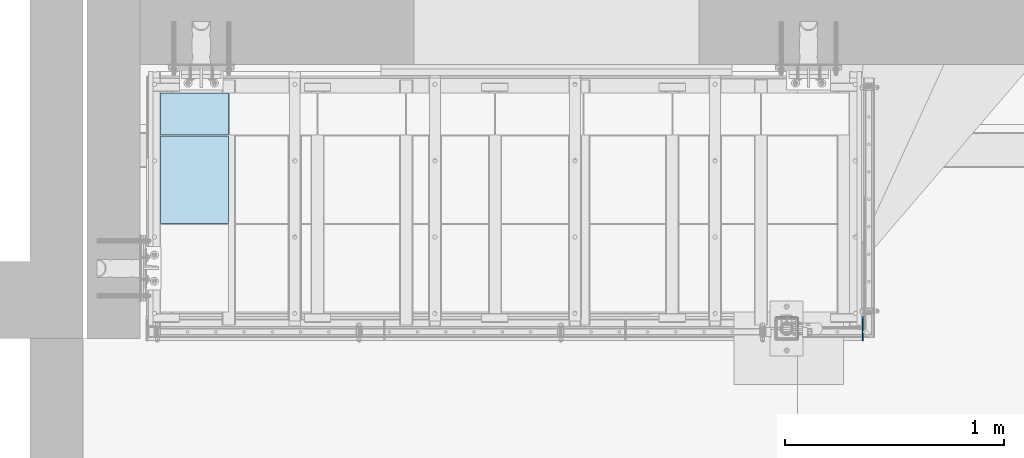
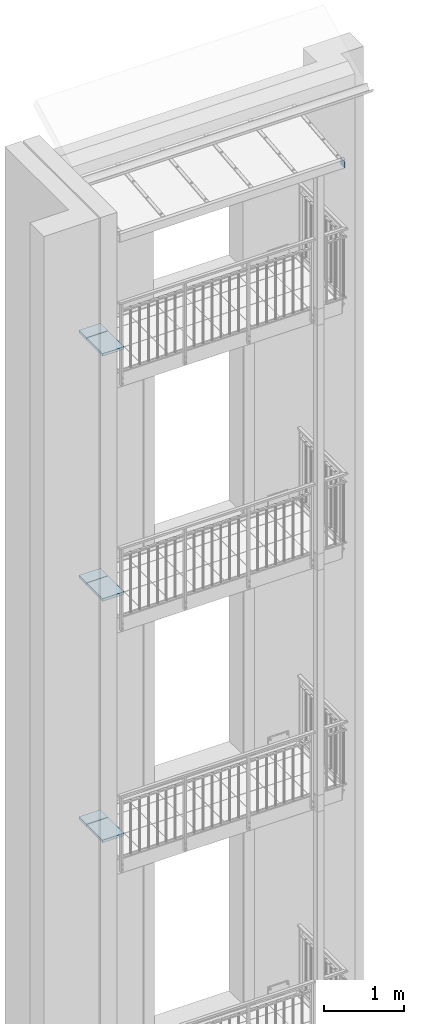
# One storey, part 59 of 162: 7 plates, 3 openings.
"""IFC2X3 building model written with IfcOpenShell, lengths in millimetres."""

from ifc_helpers import new_model, entity, si_unit, converted_unit, point, frame, frame_2d, origin, origin_with_axes, place, context, project, spatial, polyline, circle_curve, line_curve, trimmed, segment, composite_curve, outline, extrude, material, layer, layer_set, element, save


model = new_model("IFC2X3")

# Units and contexts
model_context = context("Model", 3, precision=1e-09, world=origin_with_axes())
ifc_project = project(units=[si_unit("LENGTHUNIT", "METRE", prefix="MILLI"), si_unit("AREAUNIT", "SQUARE_METRE"), si_unit("VOLUMEUNIT", "CUBIC_METRE"), converted_unit("PLANEANGLEUNIT", "DEGREE", entity("IfcPlaneAngleMeasure", 0.01745329), si_unit("PLANEANGLEUNIT", "RADIAN"), dimensions=[0, 0, 0, 0, 0, 0, 0])], contexts=[model_context])

# Site, building, storey
site_placement = place(None, origin_with_axes())
site = spatial("IfcSite", under=ifc_project, at=site_placement, Name="Hermannstra?e 1a, 60318 Frankfurt", CompositionType="ELEMENT")
building_placement = place(site_placement, origin_with_axes())
building = spatial("IfcBuilding", under=site, at=building_placement, Name="Struktur 1", CompositionType="ELEMENT")
storey_placement = place(building_placement, origin_with_axes())
storey = spatial("IfcBuildingStorey", under=building, at=storey_placement, Name="Default Storey", CompositionType="ELEMENT", Elevation=0.0)

# Plates
ifc_material_1 = material(Name="BWS")
ifc_layer_1 = layer(ifc_material_1, 40.0)
ifc_layer_set_1 = layer_set([ifc_layer_1], Name="BWS")
plate_1_placement = place(None, frame((2526.80936482, 2410.109373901, 7774.0), z_axis=(0.0, 0.0, -1.0), x_axis=(1.0, 0.0, 0.0)))
element("IfcPlate", 1, at=plate_1_placement, inside=storey, material=ifc_layer_set_1, Name="-", ObjectType="-", context=model_context, shape_type="SweptSolid", body=[
    extrude(outline(polyline([(91.0, 0.0), (400.0, 0.0), (400.0, 400.0), (91.0, 400.0), (91.0, 0.0)])), origin_with_axes(), (0.0, 0.0, 1.0), 40.0),
])
plate_2_placement = place(None, frame((2526.80936482, 2814.609373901, 7774.0), z_axis=(0.0, 0.0, -1.0), x_axis=(1.0, 0.0, 0.0)))
element("IfcPlate", 2, at=plate_2_placement, inside=storey, material=ifc_layer_set_1, Name="-", ObjectType="-", context=model_context, shape_type="SweptSolid", body=[
    extrude(outline(polyline([(91.0, 209.0), (400.0, 209.0), (400.0, 400.0), (91.0, 400.0), (91.0, 209.0)])), origin_with_axes(), (0.0, 0.0, 1.0), 40.0),
])
plate_3_placement = place(None, frame((2526.80936482, 2410.109373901, 11473.999), z_axis=(0.0, 0.0, -1.0), x_axis=(1.0, 0.0, 0.0)))
element("IfcPlate", 3, at=plate_3_placement, inside=storey, material=ifc_layer_set_1, Name="-", ObjectType="-", context=model_context, shape_type="SweptSolid", body=[
    extrude(outline(polyline([(91.0, 0.0), (400.0, 0.0), (400.0, 400.0), (91.0, 400.0), (91.0, 0.0)])), origin_with_axes(), (0.0, 0.0, 1.0), 40.0),
])
plate_4_placement = place(None, frame((2526.80936482, 2814.609373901, 11473.999), z_axis=(0.0, 0.0, -1.0), x_axis=(1.0, 0.0, 0.0)))
element("IfcPlate", 4, at=plate_4_placement, inside=storey, material=ifc_layer_set_1, Name="-", ObjectType="-", context=model_context, shape_type="SweptSolid", body=[
    extrude(outline(polyline([(91.0, 209.0), (400.0, 209.0), (400.0, 400.0), (91.0, 400.0), (91.0, 209.0)])), origin_with_axes(), (0.0, 0.0, 1.0), 40.0),
])
plate_5_placement = place(None, frame((2526.80936482, 2410.109373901, 15230.999), z_axis=(0.0, 0.0, -1.0), x_axis=(1.0, 0.0, 0.0)))
element("IfcPlate", 5, at=plate_5_placement, inside=storey, material=ifc_layer_set_1, Name="-", ObjectType="-", context=model_context, shape_type="SweptSolid", body=[
    extrude(outline(polyline([(91.0, 0.0), (400.0, 0.0), (400.0, 400.0), (91.0, 400.0), (91.0, 0.0)])), origin_with_axes(), (0.0, 0.0, 1.0), 40.0),
])
plate_6_placement = place(None, frame((2526.80936482, 2814.609373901, 15230.999), z_axis=(0.0, 0.0, -1.0), x_axis=(1.0, 0.0, 0.0)))
element("IfcPlate", 6, at=plate_6_placement, inside=storey, material=ifc_layer_set_1, Name="-", ObjectType="-", context=model_context, shape_type="SweptSolid", body=[
    extrude(outline(polyline([(91.0, 209.0), (400.0, 209.0), (400.0, 400.0), (91.0, 400.0), (91.0, 209.0)])), origin_with_axes(), (0.0, 0.0, 1.0), 40.0),
])

# Plate, openings
ifc_material_2 = material(Name="S235JR")
ifc_layer_2 = layer(ifc_material_2, 5.0)
ifc_layer_set_2 = layer_set([ifc_layer_2], Name="S235JR")
plate_7_placement = place(None, frame((5823.30936482, 1575.111246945, 17386.397408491), z_axis=(-1.0, 0.0, 0.0), x_axis=(0.0, 0.104528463, -0.994521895)))
plate_7 = element("IfcPlate", 7, at=plate_7_placement, inside=storey, material=ifc_layer_set_2, Name="-", ObjectType="-", context=model_context, shape_type="SweptSolid", body=[
    extrude(outline(polyline([(0.0, 0.0), (104.011545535, 0.0), (109.374036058, 5.955649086), (98.397340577, 110.391930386), (1.1e-08, 100.049953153), (0.0, 0.0)])), origin_with_axes(), (0.0, 0.0, 1.0), 5.0),
])
opening_1_placement = place(plate_7_placement, frame((0.0, 0.0, -0.01), z_axis=(0.0, 0.0, 1.0), x_axis=(1.0, 0.0, 0.0)))
element("IfcOpeningElement", 8, at=opening_1_placement, cuts=plate_7, ObjectType="Opening", context=model_context, shape_type="SweptSolid", body=[
    extrude(outline(composite_curve([segment(trimmed(line_curve((104.011545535, 0.0), (0.669130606, 0.743144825), 4.007058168), [point((104.011545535, 0.0))], [point((106.692790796, 2.977824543))], True, "CARTESIAN"), True, "CONTINUOUS"), segment(trimmed(circle_curve(frame_2d((100.004487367, 9.0), x_axis=(-1.0, 0.0)), 9.0), [point((106.692790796, 2.977824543))], [point((100.004487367, 0.0))], False, "CARTESIAN"), True, "CONTINUOUS"), segment(trimmed(line_curve((100.004487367, 0.0), (1.0, 0.0), 4.007058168), [point((100.004487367, 0.0))], [point((104.011545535, 0.0))], True, "CARTESIAN"), True, "CONTINUOUS")], self_intersect=False)), origin(), (0.0, 0.0, 1.0), 5.02),
])
opening_2_placement = place(plate_7_placement, frame((0.0, 0.0, -0.01), z_axis=(0.0, 0.0, 1.0), x_axis=(1.0, 0.0, 0.0)))
element("IfcOpeningElement", 9, at=opening_2_placement, cuts=plate_7, ObjectType="Opening", context=model_context, shape_type="SweptSolid", body=[
    extrude(outline(composite_curve([segment(trimmed(line_curve((109.374036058, 5.955649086), (-0.104528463, 0.994521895), 4.007058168), [point((109.374036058, 5.955649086))], [point((108.955184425, 9.940756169))], True, "CARTESIAN"), True, "CONTINUOUS"), segment(trimmed(circle_curve(frame_2d((100.004487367, 9.0), x_axis=(-1.0, 0.0)), 9.0), [point((108.955184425, 9.940756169))], [point((106.692790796, 2.977824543))], False, "CARTESIAN"), True, "CONTINUOUS"), segment(trimmed(line_curve((106.692790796, 2.977824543), (0.669130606, 0.743144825), 4.007058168), [point((106.692790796, 2.977824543))], [point((109.374036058, 5.955649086))], True, "CARTESIAN"), True, "CONTINUOUS")], self_intersect=False)), origin(), (0.0, 0.0, 1.0), 5.02),
])
opening_3_placement = place(plate_7_placement, frame((0.0, 0.0, -0.01), z_axis=(0.0, 0.0, 1.0), x_axis=(1.0, 0.0, 0.0)))
element("IfcOpeningElement", 10, at=opening_3_placement, cuts=plate_7, ObjectType="Opening", context=model_context, shape_type="SweptSolid", body=[
    extrude(outline(composite_curve([segment(trimmed(line_curve((98.397340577, 110.391930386), (-0.994521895, -0.104528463), 9.0), [point((98.397340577, 110.391930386))], [point((89.446643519, 109.451174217))], True, "CARTESIAN"), True, "CONTINUOUS"), segment(trimmed(circle_curve(frame_2d((90.387399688, 100.500477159), x_axis=(-1.0, 0.0)), 9.0), [point((89.446643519, 109.451174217))], [point((99.338096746, 101.441233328))], False, "CARTESIAN"), True, "CONTINUOUS"), segment(trimmed(line_curve((99.338096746, 101.441233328), (-0.104528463, 0.994521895), 9.0), [point((99.338096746, 101.441233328))], [point((98.397340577, 110.391930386))], True, "CARTESIAN"), True, "CONTINUOUS")], self_intersect=False)), origin(), (0.0, 0.0, 1.0), 5.02),
])

save(model, "model.ifc")
